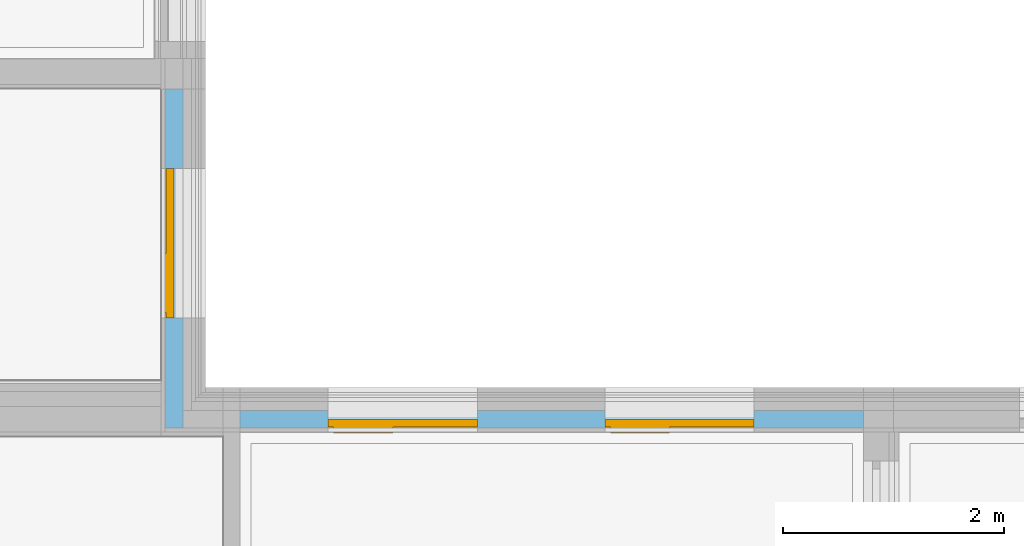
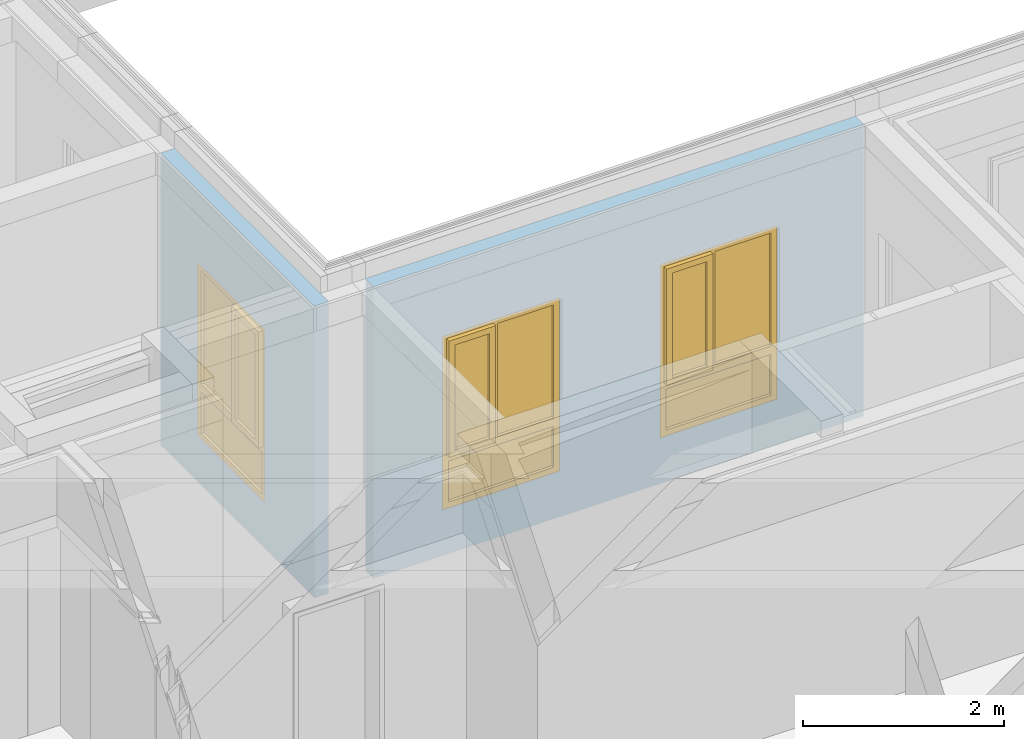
# One storey, part 90 of 222: 3 windows, 3 openings, plus 2 elements that do not belong to this part.
"""IFC4 building model written with IfcOpenShell, lengths in metres."""

from ifc_helpers import new_model, entity, si_unit, converted_unit, derived_unit, frame, frame_2d, origin, origin_with_axes, place, context, subcontext, project, spatial, polyline, rectangle, outline, extrude, closed_shell, open_shell, surface_model, source, transform, mapped, material, element, fill, save


model = new_model("IFC4")

# Units and contexts
model_context = context("Model", 3, precision=1e-05, world=origin())
body_context = subcontext(model_context, "Body", "Model", "MODEL_VIEW")
ifc_project = project(units=[si_unit("LENGTHUNIT", "METRE"), si_unit("AREAUNIT", "SQUARE_METRE"), si_unit("VOLUMEUNIT", "CUBIC_METRE"), si_unit("MASSUNIT", "GRAM", prefix="KILO"), converted_unit("PLANEANGLEUNIT", "DEGREE", entity("IfcPlaneAngleMeasure", 0.0174532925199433), si_unit("PLANEANGLEUNIT", "RADIAN"), dimensions=[0, 0, 0, 0, 0, 0, 0]), derived_unit("THERMALTRANSMITTANCEUNIT", [(si_unit("POWERUNIT", "WATT"), 1), (si_unit("THERMODYNAMICTEMPERATUREUNIT", "KELVIN"), -1), (si_unit("LENGTHUNIT", "METRE"), -2)]), derived_unit("VOLUMETRICFLOWRATEUNIT", [(si_unit("LENGTHUNIT", "METRE"), 3), (converted_unit("TIMEUNIT", "hour", entity("IfcTimeMeasure", 3600.0), si_unit("TIMEUNIT", "SECOND"), dimensions=[0, 0, 1, 0, 0, 0, 0]), -1), (si_unit("LENGTHUNIT", "METRE"), -1)])], contexts=[model_context])

# Site, building, storey
site_placement = place(None, origin())
site = spatial("IfcSite", under=ifc_project, at=site_placement, Name="Psychiatrie Neubau Wunstorf", CompositionType="ELEMENT")
building_placement = place(site_placement, origin())
building = spatial("IfcBuilding", under=site, at=building_placement, Name="Neubau H2 Stationsgebäude", CompositionType="ELEMENT")
storey_placement = place(building_placement, frame((0.0, 0.0, 3.6)))
storey = spatial("IfcBuildingStorey", under=building, at=storey_placement, Name="H2 Ebene +1", CompositionType="ELEMENT", Elevation=3.6)

# Wall, opening, window
ifc_material_1 = material(Name="WA-DL")
wall_1_placement = place(storey_placement, frame((43.9750000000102, 13.2174966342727, 0.0), z_axis=(0.0, 0.0, 1.0), x_axis=(2.37195268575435e-15, -1.0, 0.0)))
wall_1 = element("IfcWall", 1, at=wall_1_placement, inside=storey, material=ifc_material_1, context=body_context, shape_type="SweptSolid", body=[
    extrude(rectangle(XDim=3.06749694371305, YDim=0.16, at=frame_2d((1.53374847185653, 0.08), x_axis=(1.0, 0.0))), origin_with_axes(), (0.0, 0.0, 1.0), 3.55),
])
opening_1_placement = place(wall_1_placement, frame((2.07249694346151, 0.16000000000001, 0.55), z_axis=(-2.8421709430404e-15, -1.0, 0.0), x_axis=(0.0, 0.0, 1.0)))
opening_1 = element("IfcOpeningElement", 2, at=opening_1_placement, cuts=wall_1, Name="Fensteröffnung", ObjectType="Opening", context=body_context, shape_type="SweptSolid", body=[
    extrude(outline(polyline([(2.115, 1.35), (2.115, 0.0), (0.0, 0.0), (0.0, 1.35), (2.115, 1.35)])), origin_with_axes(), (0.0, 0.0, 1.0), 0.16),
])
shared_shape_1 = source(origin_with_axes(), body_context, "Body", "SurfaceModel", [
    surface_model("IfcShellBasedSurfaceModel", [(0.0, 0.0, 2.115), (0.0699999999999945, 0.0, 2.115), (0.0699999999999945, 0.0, 0.0), (0.0, 0.0, 0.0), (0.0, 0.0699999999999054, 0.0), (0.0699999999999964, 0.0699999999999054, 0.0), (0.0699999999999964, 0.0699999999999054, 2.115), (0.0, 0.0699999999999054, 2.115)], [closed_shell([[[0, 1, 2, 3]], [[4, 5, 6, 7]], [[3, 4, 7, 0]], [[2, 5, 4, 3]], [[1, 6, 5, 2]], [[0, 7, 6, 1]]], orient=[[False], [False], [False], [False], [False], [False]])]),
    surface_model("IfcShellBasedSurfaceModel", [(1.27999999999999, 0.0, 2.115), (1.34999999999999, 0.0, 2.115), (1.34999999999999, 0.0, 0.0), (1.27999999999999, 0.0, 0.0), (1.28, 0.0699999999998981, 0.0), (1.35, 0.0699999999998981, 0.0), (1.35, 0.0699999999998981, 2.115), (1.28, 0.0699999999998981, 2.115)], [closed_shell([[[0, 1, 2, 3]], [[4, 5, 6, 7]], [[3, 4, 7, 0]], [[2, 5, 4, 3]], [[1, 6, 5, 2]], [[0, 7, 6, 1]]], orient=[[False], [False], [False], [False], [False], [False]])]),
    surface_model("IfcShellBasedSurfaceModel", [(0.0699999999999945, 0.0, 0.07), (1.27999999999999, 0.0, 0.07), (1.27999999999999, 0.0, 0.0), (0.0699999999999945, 0.0, 0.0), (0.0699999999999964, 0.0699999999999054, 0.0), (1.28, 0.0699999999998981, 0.0), (1.28, 0.0699999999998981, 0.07), (0.0699999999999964, 0.0699999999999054, 0.07)], [closed_shell([[[0, 1, 2, 3]], [[4, 5, 6, 7]], [[3, 4, 7, 0]], [[2, 5, 4, 3]], [[1, 6, 5, 2]], [[0, 7, 6, 1]]], orient=[[False], [False], [False], [False], [False], [False]])]),
    surface_model("IfcShellBasedSurfaceModel", [(0.0699999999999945, 0.0, 2.115), (1.27999999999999, 0.0, 2.115), (1.27999999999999, 0.0, 2.045), (0.0699999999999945, 0.0, 2.045), (0.0699999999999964, 0.0699999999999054, 2.045), (1.28, 0.0699999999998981, 2.045), (1.28, 0.0699999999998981, 2.115), (0.0699999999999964, 0.0699999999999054, 2.115)], [closed_shell([[[0, 1, 2, 3]], [[4, 5, 6, 7]], [[3, 4, 7, 0]], [[2, 5, 4, 3]], [[1, 6, 5, 2]], [[0, 7, 6, 1]]], orient=[[False], [False], [False], [False], [False], [False]])]),
    surface_model("IfcShellBasedSurfaceModel", [(0.0699999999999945, 0.0, 0.67), (1.27999999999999, 0.0, 0.67), (1.27999999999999, 0.0, 0.57), (0.0699999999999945, 0.0, 0.57), (0.0699999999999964, 0.0699999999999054, 0.57), (1.28, 0.0699999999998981, 0.57), (1.28, 0.0699999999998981, 0.67), (0.0699999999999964, 0.0699999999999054, 0.67)], [closed_shell([[[0, 1, 2, 3]], [[4, 5, 6, 7]], [[3, 4, 7, 0]], [[2, 5, 4, 3]], [[1, 6, 5, 2]], [[0, 7, 6, 1]]], orient=[[False], [False], [False], [False], [False], [False]])]),
    surface_model("IfcShellBasedSurfaceModel", [(0.0699999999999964, 0.0349999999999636, 0.07), (0.0699999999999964, 0.0349999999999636, 0.57), (1.28, 0.0349999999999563, 0.57), (1.28, 0.0349999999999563, 0.07)], [open_shell([[[0, 1, 2, 3]]], orient=[[False]])]),
    surface_model("IfcShellBasedSurfaceModel", [(0.565699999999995, 0.0, 2.045), (0.635699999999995, 0.0, 2.045), (0.635699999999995, 0.0, 0.67), (0.565699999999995, 0.0, 0.67), (0.565699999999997, 0.0699999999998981, 0.67), (0.635699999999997, 0.0699999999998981, 0.67), (0.635699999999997, 0.0699999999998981, 2.045), (0.565699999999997, 0.0699999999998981, 2.045)], [closed_shell([[[0, 1, 2, 3]], [[4, 5, 6, 7]], [[3, 4, 7, 0]], [[2, 5, 4, 3]], [[1, 6, 5, 2]], [[0, 7, 6, 1]]], orient=[[False], [False], [False], [False], [False], [False]])]),
    surface_model("IfcShellBasedSurfaceModel", [(0.0499999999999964, 0.0499999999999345, 2.065), (0.119999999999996, 0.0499999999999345, 2.065), (0.119999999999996, 0.0499999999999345, 0.65), (0.0499999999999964, 0.0499999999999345, 0.65), (0.0499999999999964, 0.119999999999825, 0.65), (0.119999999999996, 0.119999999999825, 0.65), (0.119999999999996, 0.119999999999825, 2.065), (0.0499999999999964, 0.119999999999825, 2.065)], [closed_shell([[[0, 1, 2, 3]], [[4, 5, 6, 7]], [[3, 4, 7, 0]], [[2, 5, 4, 3]], [[1, 6, 5, 2]], [[0, 7, 6, 1]]], orient=[[False], [False], [False], [False], [False], [False]])]),
    surface_model("IfcShellBasedSurfaceModel", [(0.515699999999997, 0.0499999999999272, 2.065), (0.585699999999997, 0.0499999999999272, 2.065), (0.585699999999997, 0.0499999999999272, 0.65), (0.515699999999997, 0.0499999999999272, 0.65), (0.515699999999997, 0.119999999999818, 0.65), (0.585699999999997, 0.119999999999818, 0.65), (0.585699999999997, 0.119999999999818, 2.065), (0.515699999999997, 0.119999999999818, 2.065)], [closed_shell([[[0, 1, 2, 3]], [[4, 5, 6, 7]], [[3, 4, 7, 0]], [[2, 5, 4, 3]], [[1, 6, 5, 2]], [[0, 7, 6, 1]]], orient=[[False], [False], [False], [False], [False], [False]])]),
    surface_model("IfcShellBasedSurfaceModel", [(0.119999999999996, 0.0499999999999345, 0.72), (0.515699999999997, 0.0499999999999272, 0.72), (0.515699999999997, 0.0499999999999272, 0.65), (0.119999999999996, 0.0499999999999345, 0.65), (0.119999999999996, 0.119999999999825, 0.65), (0.515699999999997, 0.119999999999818, 0.65), (0.515699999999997, 0.119999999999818, 0.72), (0.119999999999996, 0.119999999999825, 0.72)], [closed_shell([[[0, 1, 2, 3]], [[4, 5, 6, 7]], [[3, 4, 7, 0]], [[2, 5, 4, 3]], [[1, 6, 5, 2]], [[0, 7, 6, 1]]], orient=[[False], [False], [False], [False], [False], [False]])]),
    surface_model("IfcShellBasedSurfaceModel", [(0.119999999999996, 0.0499999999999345, 2.065), (0.515699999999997, 0.0499999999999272, 2.065), (0.515699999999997, 0.0499999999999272, 1.995), (0.119999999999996, 0.0499999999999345, 1.995), (0.119999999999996, 0.119999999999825, 1.995), (0.515699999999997, 0.119999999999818, 1.995), (0.515699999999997, 0.119999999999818, 2.065), (0.119999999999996, 0.119999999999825, 2.065)], [closed_shell([[[0, 1, 2, 3]], [[4, 5, 6, 7]], [[3, 4, 7, 0]], [[2, 5, 4, 3]], [[1, 6, 5, 2]], [[0, 7, 6, 1]]], orient=[[False], [False], [False], [False], [False], [False]])]),
    surface_model("IfcShellBasedSurfaceModel", [(0.635699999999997, 0.0349999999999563, 0.67), (0.635699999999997, 0.0349999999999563, 2.045), (1.28, 0.0349999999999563, 2.045), (1.28, 0.0349999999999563, 0.67)], [open_shell([[[0, 1, 2, 3]]], orient=[[False]])]),
    surface_model("IfcShellBasedSurfaceModel", [(0.119999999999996, 0.0849999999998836, 0.72), (0.119999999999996, 0.0849999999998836, 1.995), (0.515699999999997, 0.0849999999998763, 1.995), (0.515699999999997, 0.0849999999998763, 0.72)], [open_shell([[[0, 1, 2, 3]]], orient=[[False]])]),
])
window_1_placement = place(opening_1_placement, frame((0.0, 0.0, 0.081), z_axis=(1.0, 0.0, 0.0), x_axis=(0.0, 1.0, 5.85981649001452e-15)))
window_1 = element("IfcWindow", 3, at=window_1_placement, inside=storey, Name="Fenster", OverallHeight=2.115, OverallWidth=1.35, PartitioningType="USERDEFINED", PredefinedType="WINDOW", context=body_context, shape_type="MappedRepresentation", body=[
    mapped(shared_shape_1, transform((0.0, 0.0, 0.0), x_axis=(1.0, 0.0, 0.0), y_axis=(0.0, 1.0, 0.0), z_axis=(0.0, 0.0, 1.0), scale=1.0)),
])
fill(opening_1, window_1)

# Wall, openings, windows
ifc_material_2 = material(Name="WA-DL")
wall_2_placement = place(storey_placement, frame((44.65, 10.1499996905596, 0.0), z_axis=(0.0, 0.0, 1.0), x_axis=(1.0, -3.22744748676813e-16, 0.0)))
wall_2 = element("IfcWall", 4, at=wall_2_placement, inside=storey, material=ifc_material_2, context=body_context, shape_type="SweptSolid", body=[
    extrude(rectangle(XDim=5.63600000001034, YDim=0.16, at=frame_2d((2.81800000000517, 0.08), x_axis=(1.0, 0.0))), origin_with_axes(), (0.0, 0.0, 1.0), 3.55),
])
opening_2_placement = place(wall_2_placement, frame((4.64867714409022, 0.159999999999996, 0.55), z_axis=(0.0, -1.0, 0.0), x_axis=(0.0, 0.0, 1.0)))
opening_2 = element("IfcOpeningElement", 5, at=opening_2_placement, cuts=wall_2, Name="Fensteröffnung", ObjectType="Opening", context=body_context, shape_type="SweptSolid", body=[
    extrude(outline(polyline([(2.115, 1.35), (2.115, 0.0), (0.0, 0.0), (0.0, 1.35), (2.115, 1.35)])), origin_with_axes(), (0.0, 0.0, 1.0), 0.16),
])
opening_3_placement = place(wall_2_placement, frame((2.14867714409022, 0.160000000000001, 0.55), z_axis=(0.0, -1.0, 0.0), x_axis=(0.0, 0.0, 1.0)))
opening_3 = element("IfcOpeningElement", 6, at=opening_3_placement, cuts=wall_2, Name="Fensteröffnung", ObjectType="Opening", context=body_context, shape_type="SweptSolid", body=[
    extrude(outline(polyline([(2.115, 1.35), (2.115, 0.0), (0.0, 0.0), (0.0, 1.35), (2.115, 1.35)])), origin_with_axes(), (0.0, 0.0, 1.0), 0.16),
])
shared_shape_2 = source(origin_with_axes(), body_context, "Body", "SurfaceModel", [
    surface_model("IfcShellBasedSurfaceModel", [(1.35, 0.0, 2.115), (1.35, 0.0, 0.0), (1.28, 0.0, 0.0), (1.28, 0.0, 2.115), (1.35, 0.0699999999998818, 0.0), (1.35, 0.0699999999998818, 2.115), (1.28, 0.0699999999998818, 2.115), (1.28, 0.0699999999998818, 0.0)], [closed_shell([[[0, 1, 2, 3]], [[4, 5, 6, 7]], [[1, 0, 5, 4]], [[2, 1, 4, 7]], [[3, 2, 7, 6]], [[0, 3, 6, 5]]], orient=[[False], [False], [False], [False], [False], [False]])]),
    surface_model("IfcShellBasedSurfaceModel", [(0.07, 0.0, 2.115), (0.07, 0.0, 0.0), (0.0, 0.0, 0.0), (0.0, 0.0, 2.115), (0.07, 0.0699999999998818, 0.0), (0.07, 0.0699999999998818, 2.115), (0.0, 0.0699999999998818, 2.115), (0.0, 0.0699999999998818, 0.0)], [closed_shell([[[0, 1, 2, 3]], [[4, 5, 6, 7]], [[1, 0, 5, 4]], [[2, 1, 4, 7]], [[3, 2, 7, 6]], [[0, 3, 6, 5]]], orient=[[False], [False], [False], [False], [False], [False]])]),
    surface_model("IfcShellBasedSurfaceModel", [(1.28, 0.0, 0.07), (1.28, 0.0, 0.0), (0.07, 0.0, 0.0), (0.07, 0.0, 0.07), (1.28, 0.0699999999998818, 0.0), (1.28, 0.0699999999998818, 0.07), (0.07, 0.0699999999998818, 0.07), (0.07, 0.0699999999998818, 0.0)], [closed_shell([[[0, 1, 2, 3]], [[4, 5, 6, 7]], [[1, 0, 5, 4]], [[2, 1, 4, 7]], [[3, 2, 7, 6]], [[0, 3, 6, 5]]], orient=[[False], [False], [False], [False], [False], [False]])]),
    surface_model("IfcShellBasedSurfaceModel", [(1.28, 0.0, 2.115), (1.28, 0.0, 2.045), (0.07, 0.0, 2.045), (0.07, 0.0, 2.115), (1.28, 0.0699999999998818, 2.045), (1.28, 0.0699999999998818, 2.115), (0.07, 0.0699999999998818, 2.115), (0.07, 0.0699999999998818, 2.045)], [closed_shell([[[0, 1, 2, 3]], [[4, 5, 6, 7]], [[1, 0, 5, 4]], [[2, 1, 4, 7]], [[3, 2, 7, 6]], [[0, 3, 6, 5]]], orient=[[False], [False], [False], [False], [False], [False]])]),
    surface_model("IfcShellBasedSurfaceModel", [(1.28, 0.0, 0.67), (1.28, 0.0, 0.57), (0.07, 0.0, 0.57), (0.07, 0.0, 0.67), (1.28, 0.0699999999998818, 0.57), (1.28, 0.0699999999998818, 0.67), (0.07, 0.0699999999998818, 0.67), (0.07, 0.0699999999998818, 0.57)], [closed_shell([[[0, 1, 2, 3]], [[4, 5, 6, 7]], [[1, 0, 5, 4]], [[2, 1, 4, 7]], [[3, 2, 7, 6]], [[0, 3, 6, 5]]], orient=[[False], [False], [False], [False], [False], [False]])]),
    surface_model("IfcShellBasedSurfaceModel", [(1.28, 0.03499999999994, 0.07), (0.07, 0.0349999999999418, 0.07), (0.07, 0.03499999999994, 0.57), (1.28, 0.03499999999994, 0.57)], [open_shell([[[0, 1, 2, 3]]], orient=[[False]])]),
    surface_model("IfcShellBasedSurfaceModel", [(0.784300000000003, 0.0, 2.045), (0.784300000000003, 0.0, 0.67), (0.714300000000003, 0.0, 0.67), (0.714300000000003, 0.0, 2.045), (0.784300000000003, 0.0699999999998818, 0.67), (0.784300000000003, 0.0699999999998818, 2.045), (0.714300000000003, 0.0699999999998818, 2.045), (0.714300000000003, 0.0699999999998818, 0.67)], [closed_shell([[[0, 1, 2, 3]], [[4, 5, 6, 7]], [[1, 0, 5, 4]], [[2, 1, 4, 7]], [[3, 2, 7, 6]], [[0, 3, 6, 5]]], orient=[[False], [False], [False], [False], [False], [False]])]),
    surface_model("IfcShellBasedSurfaceModel", [(1.3, 0.0499999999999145, 2.065), (1.3, 0.0499999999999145, 0.65), (1.23, 0.0499999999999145, 0.65), (1.23, 0.0499999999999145, 2.065), (1.3, 0.119999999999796, 0.65), (1.3, 0.119999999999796, 2.065), (1.23, 0.119999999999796, 2.065), (1.23, 0.119999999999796, 0.65)], [closed_shell([[[0, 1, 2, 3]], [[4, 5, 6, 7]], [[1, 0, 5, 4]], [[2, 1, 4, 7]], [[3, 2, 7, 6]], [[0, 3, 6, 5]]], orient=[[False], [False], [False], [False], [False], [False]])]),
    surface_model("IfcShellBasedSurfaceModel", [(0.834300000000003, 0.0499999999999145, 2.065), (0.834300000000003, 0.0499999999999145, 0.65), (0.764300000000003, 0.0499999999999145, 0.65), (0.764300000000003, 0.0499999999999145, 2.065), (0.834300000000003, 0.119999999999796, 0.65), (0.834300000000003, 0.119999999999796, 2.065), (0.764300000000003, 0.119999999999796, 2.065), (0.764300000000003, 0.119999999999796, 0.65)], [closed_shell([[[0, 1, 2, 3]], [[4, 5, 6, 7]], [[1, 0, 5, 4]], [[2, 1, 4, 7]], [[3, 2, 7, 6]], [[0, 3, 6, 5]]], orient=[[False], [False], [False], [False], [False], [False]])]),
    surface_model("IfcShellBasedSurfaceModel", [(1.23, 0.0499999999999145, 0.72), (1.23, 0.0499999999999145, 0.65), (0.834300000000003, 0.0499999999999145, 0.65), (0.834300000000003, 0.0499999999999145, 0.72), (1.23, 0.119999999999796, 0.65), (1.23, 0.119999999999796, 0.72), (0.834300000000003, 0.119999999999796, 0.72), (0.834300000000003, 0.119999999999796, 0.65)], [closed_shell([[[0, 1, 2, 3]], [[4, 5, 6, 7]], [[1, 0, 5, 4]], [[2, 1, 4, 7]], [[3, 2, 7, 6]], [[0, 3, 6, 5]]], orient=[[False], [False], [False], [False], [False], [False]])]),
    surface_model("IfcShellBasedSurfaceModel", [(1.23, 0.0499999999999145, 2.065), (1.23, 0.0499999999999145, 1.995), (0.834300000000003, 0.0499999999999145, 1.995), (0.834300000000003, 0.0499999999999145, 2.065), (1.23, 0.119999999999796, 1.995), (1.23, 0.119999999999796, 2.065), (0.834300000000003, 0.119999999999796, 2.065), (0.834300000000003, 0.119999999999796, 1.995)], [closed_shell([[[0, 1, 2, 3]], [[4, 5, 6, 7]], [[1, 0, 5, 4]], [[2, 1, 4, 7]], [[3, 2, 7, 6]], [[0, 3, 6, 5]]], orient=[[False], [False], [False], [False], [False], [False]])]),
    surface_model("IfcShellBasedSurfaceModel", [(0.714300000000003, 0.03499999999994, 0.67), (0.07, 0.03499999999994, 0.67), (0.07, 0.03499999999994, 2.045), (0.714300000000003, 0.03499999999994, 2.045)], [open_shell([[[0, 1, 2, 3]]], orient=[[False]])]),
    surface_model("IfcShellBasedSurfaceModel", [(1.23, 0.0849999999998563, 0.72), (0.834300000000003, 0.0849999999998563, 0.72), (0.834300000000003, 0.0849999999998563, 1.995), (1.23, 0.0849999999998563, 1.995)], [open_shell([[[0, 1, 2, 3]]], orient=[[False]])]),
])
window_2_placement = place(opening_2_placement, frame((0.0, 0.0, 0.081), z_axis=(1.0, 0.0, 0.0), x_axis=(0.0, 1.0, 3.22744748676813e-16)))
window_2 = element("IfcWindow", 7, at=window_2_placement, inside=storey, Name="Fenster", OverallHeight=2.115, OverallWidth=1.35, PartitioningType="USERDEFINED", PredefinedType="WINDOW", context=body_context, shape_type="MappedRepresentation", body=[
    mapped(shared_shape_2, transform((0.0, 0.0, 0.0), x_axis=(1.0, 0.0, 0.0), y_axis=(0.0, 1.0, 0.0), z_axis=(0.0, 0.0, 1.0), scale=1.0)),
])
fill(opening_2, window_2)
shared_shape_3 = source(origin_with_axes(), body_context, "Body", "SurfaceModel", [
    surface_model("IfcShellBasedSurfaceModel", [(1.35, 0.0, 2.115), (1.35, 0.0, 0.0), (1.28, 0.0, 0.0), (1.28, 0.0, 2.115), (1.35, 0.0699999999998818, 0.0), (1.35, 0.0699999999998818, 2.115), (1.28, 0.0699999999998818, 2.115), (1.28, 0.0699999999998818, 0.0)], [closed_shell([[[0, 1, 2, 3]], [[4, 5, 6, 7]], [[1, 0, 5, 4]], [[2, 1, 4, 7]], [[3, 2, 7, 6]], [[0, 3, 6, 5]]], orient=[[False], [False], [False], [False], [False], [False]])]),
    surface_model("IfcShellBasedSurfaceModel", [(0.07, 0.0, 2.115), (0.07, 0.0, 0.0), (0.0, 0.0, 0.0), (0.0, 0.0, 2.115), (0.07, 0.0699999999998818, 0.0), (0.07, 0.0699999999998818, 2.115), (0.0, 0.0699999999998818, 2.115), (0.0, 0.0699999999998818, 0.0)], [closed_shell([[[0, 1, 2, 3]], [[4, 5, 6, 7]], [[1, 0, 5, 4]], [[2, 1, 4, 7]], [[3, 2, 7, 6]], [[0, 3, 6, 5]]], orient=[[False], [False], [False], [False], [False], [False]])]),
    surface_model("IfcShellBasedSurfaceModel", [(1.28, 0.0, 0.07), (1.28, 0.0, 0.0), (0.07, 0.0, 0.0), (0.07, 0.0, 0.07), (1.28, 0.0699999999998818, 0.0), (1.28, 0.0699999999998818, 0.07), (0.07, 0.0699999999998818, 0.07), (0.07, 0.0699999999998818, 0.0)], [closed_shell([[[0, 1, 2, 3]], [[4, 5, 6, 7]], [[1, 0, 5, 4]], [[2, 1, 4, 7]], [[3, 2, 7, 6]], [[0, 3, 6, 5]]], orient=[[False], [False], [False], [False], [False], [False]])]),
    surface_model("IfcShellBasedSurfaceModel", [(1.28, 0.0, 2.115), (1.28, 0.0, 2.045), (0.07, 0.0, 2.045), (0.07, 0.0, 2.115), (1.28, 0.0699999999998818, 2.045), (1.28, 0.0699999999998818, 2.115), (0.07, 0.0699999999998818, 2.115), (0.07, 0.0699999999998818, 2.045)], [closed_shell([[[0, 1, 2, 3]], [[4, 5, 6, 7]], [[1, 0, 5, 4]], [[2, 1, 4, 7]], [[3, 2, 7, 6]], [[0, 3, 6, 5]]], orient=[[False], [False], [False], [False], [False], [False]])]),
    surface_model("IfcShellBasedSurfaceModel", [(1.28, 0.0, 0.67), (1.28, 0.0, 0.57), (0.07, 0.0, 0.57), (0.07, 0.0, 0.67), (1.28, 0.0699999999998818, 0.57), (1.28, 0.0699999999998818, 0.67), (0.07, 0.0699999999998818, 0.67), (0.07, 0.0699999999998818, 0.57)], [closed_shell([[[0, 1, 2, 3]], [[4, 5, 6, 7]], [[1, 0, 5, 4]], [[2, 1, 4, 7]], [[3, 2, 7, 6]], [[0, 3, 6, 5]]], orient=[[False], [False], [False], [False], [False], [False]])]),
    surface_model("IfcShellBasedSurfaceModel", [(1.28, 0.03499999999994, 0.07), (0.07, 0.0349999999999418, 0.07), (0.07, 0.03499999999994, 0.57), (1.28, 0.03499999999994, 0.57)], [open_shell([[[0, 1, 2, 3]]], orient=[[False]])]),
    surface_model("IfcShellBasedSurfaceModel", [(0.784300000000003, 0.0, 2.045), (0.784300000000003, 0.0, 0.67), (0.714300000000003, 0.0, 0.67), (0.714300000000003, 0.0, 2.045), (0.784300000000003, 0.0699999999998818, 0.67), (0.784300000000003, 0.0699999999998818, 2.045), (0.714300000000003, 0.0699999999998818, 2.045), (0.714300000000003, 0.0699999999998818, 0.67)], [closed_shell([[[0, 1, 2, 3]], [[4, 5, 6, 7]], [[1, 0, 5, 4]], [[2, 1, 4, 7]], [[3, 2, 7, 6]], [[0, 3, 6, 5]]], orient=[[False], [False], [False], [False], [False], [False]])]),
    surface_model("IfcShellBasedSurfaceModel", [(1.3, 0.0499999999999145, 2.065), (1.3, 0.0499999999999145, 0.65), (1.23, 0.0499999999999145, 0.65), (1.23, 0.0499999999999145, 2.065), (1.3, 0.119999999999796, 0.65), (1.3, 0.119999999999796, 2.065), (1.23, 0.119999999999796, 2.065), (1.23, 0.119999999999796, 0.65)], [closed_shell([[[0, 1, 2, 3]], [[4, 5, 6, 7]], [[1, 0, 5, 4]], [[2, 1, 4, 7]], [[3, 2, 7, 6]], [[0, 3, 6, 5]]], orient=[[False], [False], [False], [False], [False], [False]])]),
    surface_model("IfcShellBasedSurfaceModel", [(0.834300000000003, 0.0499999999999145, 2.065), (0.834300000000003, 0.0499999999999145, 0.65), (0.764300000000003, 0.0499999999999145, 0.65), (0.764300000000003, 0.0499999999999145, 2.065), (0.834300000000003, 0.119999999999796, 0.65), (0.834300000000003, 0.119999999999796, 2.065), (0.764300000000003, 0.119999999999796, 2.065), (0.764300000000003, 0.119999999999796, 0.65)], [closed_shell([[[0, 1, 2, 3]], [[4, 5, 6, 7]], [[1, 0, 5, 4]], [[2, 1, 4, 7]], [[3, 2, 7, 6]], [[0, 3, 6, 5]]], orient=[[False], [False], [False], [False], [False], [False]])]),
    surface_model("IfcShellBasedSurfaceModel", [(1.23, 0.0499999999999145, 0.72), (1.23, 0.0499999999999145, 0.65), (0.834300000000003, 0.0499999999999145, 0.65), (0.834300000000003, 0.0499999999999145, 0.72), (1.23, 0.119999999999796, 0.65), (1.23, 0.119999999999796, 0.72), (0.834300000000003, 0.119999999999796, 0.72), (0.834300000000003, 0.119999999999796, 0.65)], [closed_shell([[[0, 1, 2, 3]], [[4, 5, 6, 7]], [[1, 0, 5, 4]], [[2, 1, 4, 7]], [[3, 2, 7, 6]], [[0, 3, 6, 5]]], orient=[[False], [False], [False], [False], [False], [False]])]),
    surface_model("IfcShellBasedSurfaceModel", [(1.23, 0.0499999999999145, 2.065), (1.23, 0.0499999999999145, 1.995), (0.834300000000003, 0.0499999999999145, 1.995), (0.834300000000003, 0.0499999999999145, 2.065), (1.23, 0.119999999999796, 1.995), (1.23, 0.119999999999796, 2.065), (0.834300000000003, 0.119999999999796, 2.065), (0.834300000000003, 0.119999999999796, 1.995)], [closed_shell([[[0, 1, 2, 3]], [[4, 5, 6, 7]], [[1, 0, 5, 4]], [[2, 1, 4, 7]], [[3, 2, 7, 6]], [[0, 3, 6, 5]]], orient=[[False], [False], [False], [False], [False], [False]])]),
    surface_model("IfcShellBasedSurfaceModel", [(0.714300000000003, 0.03499999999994, 0.67), (0.07, 0.03499999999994, 0.67), (0.07, 0.03499999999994, 2.045), (0.714300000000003, 0.03499999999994, 2.045)], [open_shell([[[0, 1, 2, 3]]], orient=[[False]])]),
    surface_model("IfcShellBasedSurfaceModel", [(1.23, 0.0849999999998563, 0.72), (0.834300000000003, 0.0849999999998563, 0.72), (0.834300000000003, 0.0849999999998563, 1.995), (1.23, 0.0849999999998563, 1.995)], [open_shell([[[0, 1, 2, 3]]], orient=[[False]])]),
])
window_3_placement = place(opening_3_placement, frame((0.0, 0.0, 0.081), z_axis=(1.0, 0.0, 0.0), x_axis=(0.0, 1.0, 3.22744748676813e-16)))
window_3 = element("IfcWindow", 8, at=window_3_placement, inside=storey, Name="Fenster", OverallHeight=2.115, OverallWidth=1.35, PartitioningType="USERDEFINED", PredefinedType="WINDOW", context=body_context, shape_type="MappedRepresentation", body=[
    mapped(shared_shape_3, transform((0.0, 0.0, 0.0), x_axis=(1.0, 0.0, 0.0), y_axis=(0.0, 1.0, 0.0), z_axis=(0.0, 0.0, 1.0), scale=1.0)),
])
fill(opening_3, window_3)

save(model, "model.ifc")
